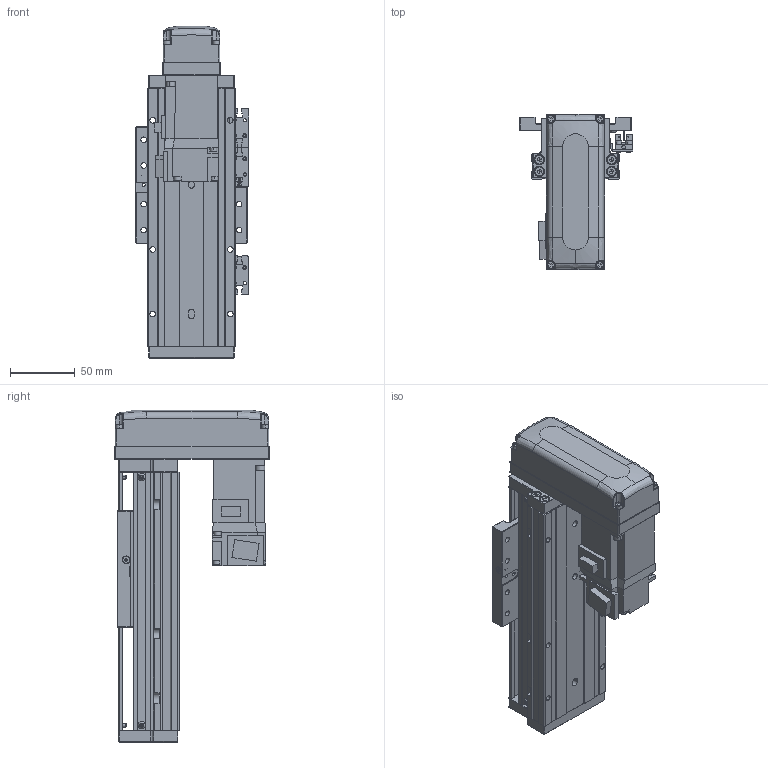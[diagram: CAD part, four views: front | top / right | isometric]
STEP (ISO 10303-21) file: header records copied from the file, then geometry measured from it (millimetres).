
FILE_DESCRIPTION (( 'STEP AP203' ), '1' );
FILE_NAME ('KTHAL60-50-BM-M10-C4L.step', '2022-03-19T08:41:21', ( '微软用户' ), ( '微软中国' ), 'SwSTEP 2.0', 'SolidWorks 2020', '' );
FILE_SCHEMA (( 'CONFIG_CONTROL_DESIGN' ));
Length unit declared in the file: millimetre
Products named in the file (18): KTHA60-005; GBT77-2000M3-3; KTHAL60-50-BM-M10-C4L; GB¨uT 70.2-M3¡Á5_M3¡Á6; GBT 70.1-M3℅6; GBT 70.3-M3℅6; CTHA60-016; EE_SX911P_R; HG-KR13（三菱）; KTHA60-001_200; CTHA60-017; CTHA60-015-2_CTHA60-015-2; KTHLA60-002; CTHA60-021; CTHA60-033; KTHA60-004; GBT 70.1-M4×16; GBT 70.1-M3×15
Assembly tree (51 placements, depth 2):
  KTHAL60-50-BM-M10-C4L
    KTHA60-001_200
    KTHLA60-002
    KTHA60-004
    KTHA60-005
    GB¨uT 70.2-M3¡Á5_M3¡Á6  x5
    GBT 70.3-M3℅6  x4
    EE_SX911P_R  x3
    CTHA60-017  x3
    CTHA60-021  x2
    GBT 70.1-M4×16  x10
    GBT77-2000M3-3  x6
    GBT 70.1-M3℅6  x6
    CTHA60-016
    HG-KR13（三菱）
    CTHA60-015-2_CTHA60-015-2
    CTHA60-033
    GBT 70.1-M3×15  x4
Bounding box: 87.82 x 120 x 257 mm (x, y, z)
Volume: 797188.3 mm3; surface area: 195617.8 mm2
Topology: 54 solids, 54 shells, 2215 faces, 5219 edges, 3197 vertices
Faces by surface type: plane 1264, cylinder 535, cone 278, torus 98, bspline 26, sphere 14
Entity records: 37409 total; most frequent: CARTESIAN_POINT 7112, DIRECTION 5803, ORIENTED_EDGE 5582, EDGE_CURVE 2791, AXIS2_PLACEMENT_3D 1955, VECTOR 1893, LINE 1893, VERTEX_POINT 1746
